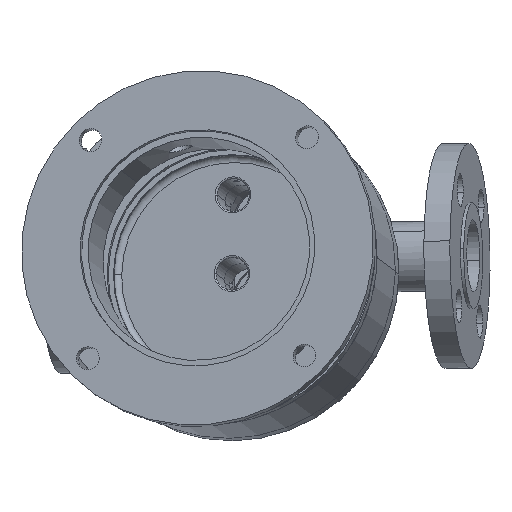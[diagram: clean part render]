
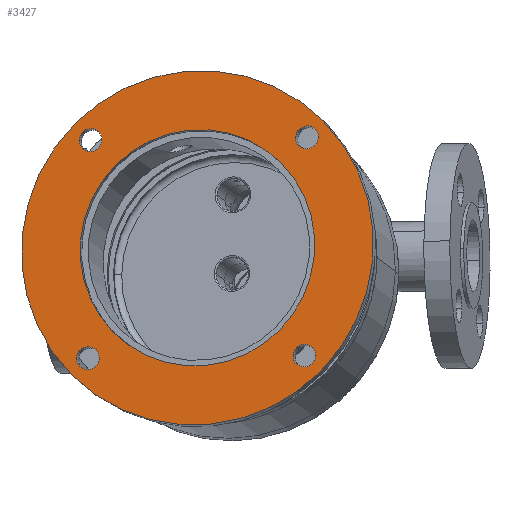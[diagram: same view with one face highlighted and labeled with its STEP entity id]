
A CAD part, top view. The second image highlights one B-rep face of the part: STEP entity #3427.
In plain terms, the highlighted planar face has unit normal (-0.178, 0.131, 0.975).
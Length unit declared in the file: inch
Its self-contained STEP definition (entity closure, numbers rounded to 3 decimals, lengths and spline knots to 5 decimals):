
#402 = DIRECTION ( 'NONE',  ( -0.178, 0.131, 0.975 ) ) ;
#596 = CARTESIAN_POINT ( 'NONE',  ( -5.40381, 0.72655, 5.92856 ) ) ;
#929 = DIRECTION ( 'NONE',  ( 0.178, -0.131, -0.975 ) ) ;
#934 = EDGE_CURVE ( 'NONE', #4905, #14152, #70434, .T. ) ;
#1283 = CARTESIAN_POINT ( 'NONE',  ( -3.18509, 2.65863, 6.07378 ) ) ;
#2053 = DIRECTION ( 'NONE',  ( -0.687, 0.693, -0.218 ) ) ;
#3427 = ADVANCED_FACE ( 'NONE', ( #48398, #79129, #54545, #22622, #16484, #73400 ), #28358, .F. ) ;
#3939 = AXIS2_PLACEMENT_3D ( 'NONE', #22792, #53516, #17067 ) ;
#4305 = ORIENTED_EDGE ( 'NONE', *, *, #12320, .F. ) ;
#4905 = VERTEX_POINT ( 'NONE', #76531 ) ;
#7076 = CARTESIAN_POINT ( 'NONE',  ( -6.95087, 2.28528, 5.43691 ) ) ;
#7565 = DIRECTION ( 'NONE',  ( -0.687, 0.693, -0.218 ) ) ;
#7980 = CIRCLE ( 'NONE', #34194, 2.2505 ) ;
#8490 = VERTEX_POINT ( 'NONE', #29068 ) ;
#8815 = ORIENTED_EDGE ( 'NONE', *, *, #19818, .F. ) ;
#9900 = EDGE_CURVE ( 'NONE', #21614, #55653, #45779, .T. ) ;
#10917 = CIRCLE ( 'NONE', #69832, 0.21875 ) ;
#11576 = EDGE_LOOP ( 'NONE', ( #34268, #30742 ) ) ;
#12320 = EDGE_CURVE ( 'NONE', #56303, #8490, #49722, .T. ) ;
#12376 = AXIS2_PLACEMENT_3D ( 'NONE', #596, #67925, #7565 ) ;
#14152 = VERTEX_POINT ( 'NONE', #78260 ) ;
#14366 = CARTESIAN_POINT ( 'NONE',  ( -5.40381, 0.72655, 5.92856 ) ) ;
#15419 = ORIENTED_EDGE ( 'NONE', *, *, #39917, .F. ) ;
#16484 = FACE_OUTER_BOUND ( 'NONE', #58905, .T. ) ;
#17067 = DIRECTION ( 'NONE',  ( -0.687, 0.693, -0.218 ) ) ;
#17653 = ORIENTED_EDGE ( 'NONE', *, *, #53573, .F. ) ;
#18576 = EDGE_LOOP ( 'NONE', ( #74456, #41478 ) ) ;
#19627 = AXIS2_PLACEMENT_3D ( 'NONE', #14366, #34417, #2053 ) ;
#19818 = EDGE_CURVE ( 'NONE', #78617, #42415, #72067, .T. ) ;
#20087 = AXIS2_PLACEMENT_3D ( 'NONE', #22225, #21818, #42252 ) ;
#20591 = AXIS2_PLACEMENT_3D ( 'NONE', #78302, #29532, #36086 ) ;
#21614 = VERTEX_POINT ( 'NONE', #32003 ) ;
#21818 = DIRECTION ( 'NONE',  ( 0.178, -0.131, -0.975 ) ) ;
#22225 = CARTESIAN_POINT ( 'NONE',  ( -3.02741, 3.12046, 6.0405 ) ) ;
#22622 = FACE_BOUND ( 'NONE', #66064, .T. ) ;
#22792 = CARTESIAN_POINT ( 'NONE',  ( -5.40381, 0.72655, 5.92856 ) ) ;
#22900 = EDGE_LOOP ( 'NONE', ( #8815, #15419 ) ) ;
#23237 = VERTEX_POINT ( 'NONE', #47455 ) ;
#26339 = DIRECTION ( 'NONE',  ( -0.687, 0.693, -0.218 ) ) ;
#26963 = DIRECTION ( 'NONE',  ( -0.178, 0.131, 0.975 ) ) ;
#27500 = CARTESIAN_POINT ( 'NONE',  ( -7.47216, -1.35704, 5.83112 ) ) ;
#28064 = EDGE_CURVE ( 'NONE', #53004, #31489, #10917, .T. ) ;
#28172 = CARTESIAN_POINT ( 'NONE',  ( -7.42313, 2.76111, 5.28682 ) ) ;
#28358 = PLANE ( 'NONE',  #20087 ) ;
#29068 = CARTESIAN_POINT ( 'NONE',  ( -3.08374, -1.61103, 6.66587 ) ) ;
#29532 = DIRECTION ( 'NONE',  ( -0.178, 0.131, 0.975 ) ) ;
#30742 = ORIENTED_EDGE ( 'NONE', *, *, #934, .F. ) ;
#31489 = VERTEX_POINT ( 'NONE', #73791 ) ;
#32003 = CARTESIAN_POINT ( 'NONE',  ( -3.23412, -1.45952, 6.61808 ) ) ;
#33606 = EDGE_CURVE ( 'NONE', #8490, #56303, #62062, .T. ) ;
#34189 = ORIENTED_EDGE ( 'NONE', *, *, #9900, .F. ) ;
#34194 = AXIS2_PLACEMENT_3D ( 'NONE', #50915, #929, #26339 ) ;
#34268 = ORIENTED_EDGE ( 'NONE', *, *, #61677, .F. ) ;
#34417 = DIRECTION ( 'NONE',  ( 0.178, -0.131, -0.975 ) ) ;
#35330 = AXIS2_PLACEMENT_3D ( 'NONE', #77759, #46638, #60519 ) ;
#36086 = DIRECTION ( 'NONE',  ( 0.687, -0.693, 0.218 ) ) ;
#36244 = DIRECTION ( 'NONE',  ( -0.178, 0.131, 0.975 ) ) ;
#36317 = CARTESIAN_POINT ( 'NONE',  ( -7.72388, 3.06412, 5.19125 ) ) ;
#38076 = ORIENTED_EDGE ( 'NONE', *, *, #46570, .F. ) ;
#38974 = DIRECTION ( 'NONE',  ( -0.178, 0.131, 0.975 ) ) ;
#39917 = EDGE_CURVE ( 'NONE', #42415, #78617, #59838, .T. ) ;
#41478 = ORIENTED_EDGE ( 'NONE', *, *, #44411, .T. ) ;
#42252 = DIRECTION ( 'NONE',  ( -0.687, 0.693, -0.218 ) ) ;
#42415 = VERTEX_POINT ( 'NONE', #60479 ) ;
#42890 = DIRECTION ( 'NONE',  ( -0.178, 0.131, 0.975 ) ) ;
#43625 = CARTESIAN_POINT ( 'NONE',  ( -7.27276, 2.6096, 5.33461 ) ) ;
#44411 = EDGE_CURVE ( 'NONE', #23237, #74563, #52372, .T. ) ;
#45070 = AXIS2_PLACEMENT_3D ( 'NONE', #53474, #36244, #60022 ) ;
#45779 = CIRCLE ( 'NONE', #35330, 0.21875 ) ;
#45791 = EDGE_CURVE ( 'NONE', #74563, #23237, #7980, .T. ) ;
#46570 = EDGE_CURVE ( 'NONE', #31489, #53004, #80059, .T. ) ;
#46638 = DIRECTION ( 'NONE',  ( -0.178, 0.131, 0.975 ) ) ;
#46754 = AXIS2_PLACEMENT_3D ( 'NONE', #56535, #402, #69248 ) ;
#47455 = CARTESIAN_POINT ( 'NONE',  ( -3.85676, -0.83219, 6.42021 ) ) ;
#48398 = FACE_BOUND ( 'NONE', #22900, .T. ) ;
#48489 = CARTESIAN_POINT ( 'NONE',  ( -7.42313, 2.76111, 5.28682 ) ) ;
#48749 = ORIENTED_EDGE ( 'NONE', *, *, #33606, .F. ) ;
#49722 = CIRCLE ( 'NONE', #19627, 3.375 ) ;
#50915 = CARTESIAN_POINT ( 'NONE',  ( -5.40381, 0.72655, 5.92856 ) ) ;
#51622 = CIRCLE ( 'NONE', #45070, 0.21875 ) ;
#52372 = CIRCLE ( 'NONE', #3939, 2.2505 ) ;
#52405 = AXIS2_PLACEMENT_3D ( 'NONE', #60922, #42890, #73225 ) ;
#52603 = AXIS2_PLACEMENT_3D ( 'NONE', #28172, #26963, #76924 ) ;
#53004 = VERTEX_POINT ( 'NONE', #43625 ) ;
#53147 = EDGE_LOOP ( 'NONE', ( #34189, #17653 ) ) ;
#53474 = CARTESIAN_POINT ( 'NONE',  ( -7.47216, -1.35704, 5.83112 ) ) ;
#53516 = DIRECTION ( 'NONE',  ( 0.178, -0.131, -0.975 ) ) ;
#53573 = EDGE_CURVE ( 'NONE', #55653, #21614, #68995, .T. ) ;
#54545 = FACE_BOUND ( 'NONE', #11576, .T. ) ;
#55041 = DIRECTION ( 'NONE',  ( 0.687, -0.693, 0.218 ) ) ;
#55653 = VERTEX_POINT ( 'NONE', #59003 ) ;
#56303 = VERTEX_POINT ( 'NONE', #36317 ) ;
#56535 = CARTESIAN_POINT ( 'NONE',  ( -3.33546, 2.81013, 6.02599 ) ) ;
#58905 = EDGE_LOOP ( 'NONE', ( #4305, #48749 ) ) ;
#59003 = CARTESIAN_POINT ( 'NONE',  ( -3.53487, -1.1565, 6.5225 ) ) ;
#59838 = CIRCLE ( 'NONE', #46754, 0.21875 ) ;
#60022 = DIRECTION ( 'NONE',  ( -0.687, 0.693, -0.218 ) ) ;
#60479 = CARTESIAN_POINT ( 'NONE',  ( -3.48584, 2.96164, 5.9782 ) ) ;
#60519 = DIRECTION ( 'NONE',  ( 0.687, -0.693, 0.218 ) ) ;
#60922 = CARTESIAN_POINT ( 'NONE',  ( -3.33546, 2.81013, 6.02599 ) ) ;
#61217 = AXIS2_PLACEMENT_3D ( 'NONE', #27500, #38974, #63967 ) ;
#61677 = EDGE_CURVE ( 'NONE', #14152, #4905, #51622, .T. ) ;
#62062 = CIRCLE ( 'NONE', #12376, 3.375 ) ;
#62757 = ORIENTED_EDGE ( 'NONE', *, *, #28064, .F. ) ;
#63967 = DIRECTION ( 'NONE',  ( -0.687, 0.693, -0.218 ) ) ;
#66064 = EDGE_LOOP ( 'NONE', ( #62757, #38076 ) ) ;
#67925 = DIRECTION ( 'NONE',  ( 0.178, -0.131, -0.975 ) ) ;
#68995 = CIRCLE ( 'NONE', #20591, 0.21875 ) ;
#69248 = DIRECTION ( 'NONE',  ( 0.687, -0.693, 0.218 ) ) ;
#69832 = AXIS2_PLACEMENT_3D ( 'NONE', #48489, #78420, #55041 ) ;
#70434 = CIRCLE ( 'NONE', #61217, 0.21875 ) ;
#72067 = CIRCLE ( 'NONE', #52405, 0.21875 ) ;
#73225 = DIRECTION ( 'NONE',  ( 0.687, -0.693, 0.218 ) ) ;
#73400 = FACE_BOUND ( 'NONE', #18576, .T. ) ;
#73791 = CARTESIAN_POINT ( 'NONE',  ( -7.57351, 2.91262, 5.23903 ) ) ;
#74456 = ORIENTED_EDGE ( 'NONE', *, *, #45791, .T. ) ;
#74563 = VERTEX_POINT ( 'NONE', #7076 ) ;
#76531 = CARTESIAN_POINT ( 'NONE',  ( -7.62254, -1.20553, 5.78333 ) ) ;
#76924 = DIRECTION ( 'NONE',  ( 0.687, -0.693, 0.218 ) ) ;
#77759 = CARTESIAN_POINT ( 'NONE',  ( -3.38449, -1.30801, 6.57029 ) ) ;
#78260 = CARTESIAN_POINT ( 'NONE',  ( -7.32179, -1.50855, 5.87891 ) ) ;
#78302 = CARTESIAN_POINT ( 'NONE',  ( -3.38449, -1.30801, 6.57029 ) ) ;
#78420 = DIRECTION ( 'NONE',  ( -0.178, 0.131, 0.975 ) ) ;
#78617 = VERTEX_POINT ( 'NONE', #1283 ) ;
#79129 = FACE_BOUND ( 'NONE', #53147, .T. ) ;
#80059 = CIRCLE ( 'NONE', #52603, 0.21875 ) ;
